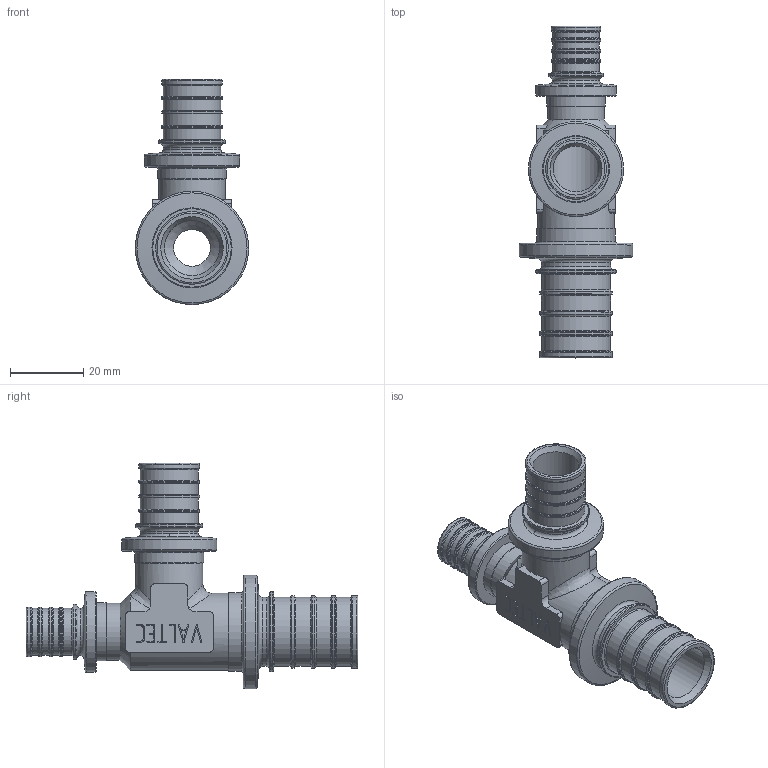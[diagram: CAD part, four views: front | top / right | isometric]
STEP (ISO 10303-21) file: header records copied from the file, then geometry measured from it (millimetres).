
FILE_DESCRIPTION(('STEP AP203'), '1');
FILE_NAME('覆.752241.014 - VTm.431.G.252016 秮鍣. 縺鳱', '', ('UNSPECIFIED'), ('UNSPECIFIED'), 'C3D Converter', 'C3D Toolkit', '');
FILE_SCHEMA(('CONFIG_CONTROL_DESIGN'));
Length unit declared in the file: millimetre
Products named in the file (1): ВР.752241.014
Bounding box: 30.9 x 90.4 x 61.35 mm (x, y, z)
Volume: 18901 mm3; surface area: 15351 mm2
Topology: 1 solids, 1 shells, 408 faces, 1044 edges, 667 vertices
Faces by surface type: extrusion 142, plane 130, torus 62, cylinder 59, cone 10, bspline 5
Full cylindrical faces by diameter (mm): 10 x1, 12.5 x1, 12.8 x4, 13.5 x4, 15 x2, 15.5 x1, 15.7 x5, 15.8 x1, 16.5 x4, 18.2 x1, 18.3 x1, 18.7 x1, 18.8 x5, 19.8 x4, 21 x1, 21.4 x1, 21.8 x1, 21.9 x1, 25.9 x1, 30.9 x1
Entity records: 16630 total; most frequent: CARTESIAN_POINT 4401, ORIENTED_EDGE 1866, DIRECTION 1446, EDGE_CURVE 933, VERTEX_POINT 667, VECTOR 582, EDGE_LOOP 552, B_SPLINE_CURVE_WITH_KNOTS 465
